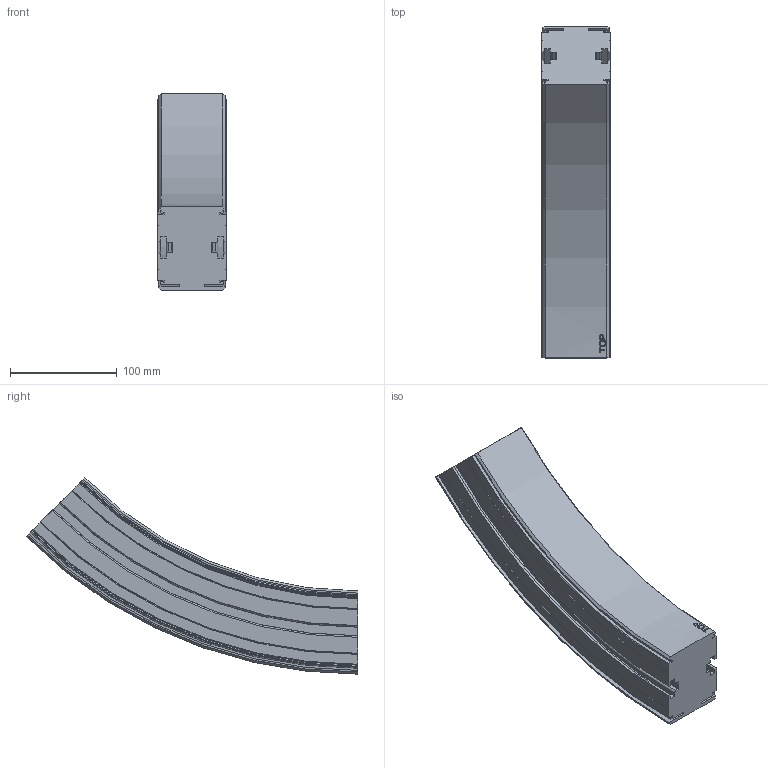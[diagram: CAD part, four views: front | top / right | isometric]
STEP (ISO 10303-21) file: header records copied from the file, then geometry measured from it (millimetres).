
FILE_DESCRIPTION(/* description */ ('VERTIKALKURVA S620 R400'),/* implementation_level */ '2;1');
FILE_NAME(/* name */ '\\carryline.intra\privat\users\mathias\Desktop\Tillfälliga filer\620-5645+620-2000-UPP-01.stp',/* time_stamp */ '2018-12-05T16:05:08+01:00',/* author */ ('MD'),/* organization */ ('CARRYLINE'),/* preprocessor_version */ 'ST-DEVELOPER v17',/* originating_system */ 'Autodesk Inventor 2018',/* authorisation */ '');
FILE_SCHEMA (('AUTOMOTIVE_DESIGN { 1 0 10303 214 3 1 1 }'));
Length unit declared in the file: millimetre
Products named in the file (1): 620-5645+620-2000-UPP-01
Bounding box: 64 x 311.13 x 184.03 mm (x, y, z)
Volume: 1404132.6 mm3; surface area: 162055.7 mm2
Topology: 1 solids, 1 shells, 149 faces, 426 edges, 284 vertices
Faces by surface type: plane 54, cylinder 37, torus 28, cone 16, bspline 14
Entity records: 9533 total; most frequent: CARTESIAN_POINT 5513, ORIENTED_EDGE 852, DIRECTION 836, EDGE_CURVE 426, AXIS2_PLACEMENT_3D 315, VERTEX_POINT 284, LINE 206, VECTOR 206
